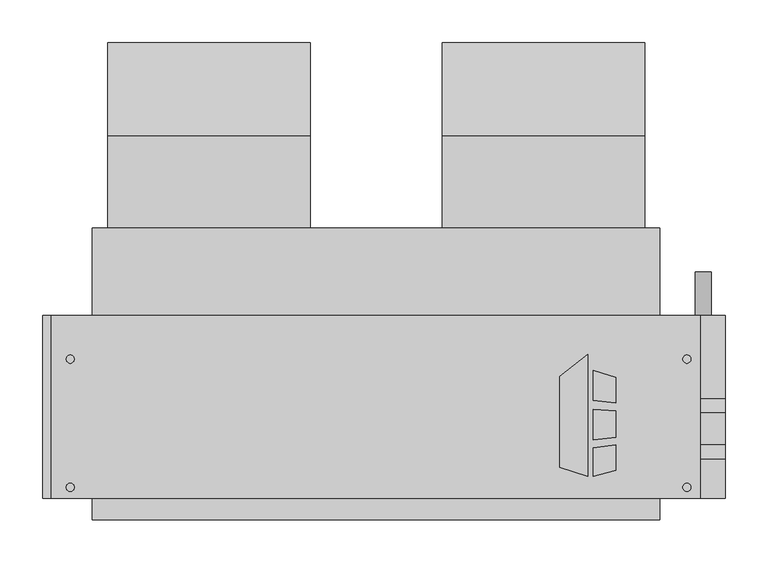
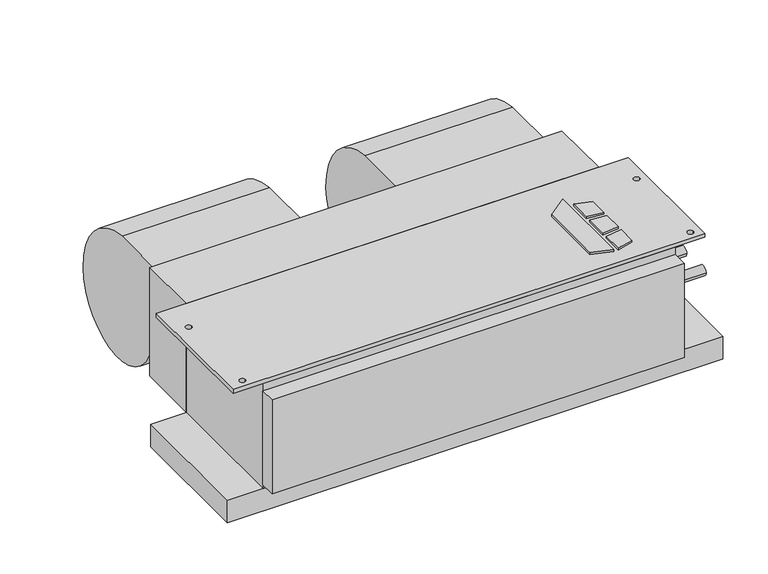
"""IFC4 building model written with IfcOpenShell, lengths in millimetres: proxy geometry, Concealed_Horizontal_Fan_Coil_Unit_-_CHY_-_IEC_-_2-Pipe_Cool-EHeat_RH_2022 : Size 04 - 277v/60Hz/1Ph - 4 Row 3.0kW."""

from ifc_helpers import new_model, si_unit, point, frame, frame_2d, origin, origin_with_axes, place, context, project, spatial, polyline, circle_curve, trimmed, segment, composite_curve, outline, extrude, source, transform, mapped, element, save


def mechanical_equipment_ea1d5f5e(model_context):
    return source(origin(), model_context, "Body", "SweptSolid", [
        extrude(outline(polyline([(366.4019761, -202.5703476), (398.9602728, -177.1330184), (398.9602728, -319.0875), (366.4019761, -308.8679201), (366.4019761, -202.5703476)])), origin_with_axes(), (0.0, 0.0, 1.0), 3.175),
        extrude(outline(polyline([(405.7186058, -230.442352), (405.7186058, -195.9624379), (431.8, -204.1490115), (431.8, -233.6447446), (405.7186058, -230.442352)])), origin_with_axes(), (0.0, 0.0, 1.0), 3.175),
        extrude(outline(polyline([(431.8, -312.0990115), (405.7186058, -319.0875), (405.7186058, -285.8661996), (431.8, -282.3243564), (431.8, -312.0990115)])), origin_with_axes(), (0.0, 0.0, 1.0), 3.175),
        extrude(outline(polyline([(431.8, -242.7263277), (431.8, -273.976483), (405.7186058, -276.717748), (405.7186058, -240.8600378), (431.8, -242.7263277)])), origin_with_axes(), (0.0, 0.0, 1.0), 3.175),
        extrude(outline(composite_curve([segment(trimmed(circle_curve(frame_2d((68.401169, -136.0299844)), 117.3559541), [point((77.7875, -19.05))], [point((185.7375, -138.176))], False, "CARTESIAN"), True, "CONTINUOUS"), segment(trimmed(circle_curve(frame_2d((90.0022663, -136.4250563)), 95.7512443), [point((185.7375, -138.176))], [point((77.7875, -231.394))], False, "CARTESIAN"), True, "CONTINUOUS"), segment(trimmed(circle_curve(frame_2d((89.9711869, -136.6666968)), 95.5076133), [point((77.7875, -231.394))], [point((-5.5245, -138.176))], False, "CARTESIAN"), True, "CONTINUOUS"), segment(trimmed(circle_curve(frame_2d((-24.6059828, -138.4775816)), 19.0838659), [point((-5.5245, -138.176))], [point((-17.7963373, -120.65))], True, "CARTESIAN"), True, "CONTINUOUS"), segment(polyline([(-17.7963373, -120.65), (-30.1625, -120.65), (-30.1625, -19.05), (77.7875, -19.05)]), True, "CONTINUOUS")], self_intersect=False)), frame((229.4255, 0.0, 0.0), z_axis=(1.0, 0.0, 0.0), x_axis=(0.0, 1.0, 0.0)), (0.0, 0.0, 1.0), 235.712),
        extrude(outline(composite_curve([segment(trimmed(circle_curve(frame_2d((68.401169, -136.0299844)), 117.3559541), [point((77.7875, -19.05))], [point((185.7375, -138.176))], False, "CARTESIAN"), True, "CONTINUOUS"), segment(trimmed(circle_curve(frame_2d((90.0022663, -136.4250563)), 95.7512443), [point((185.7375, -138.176))], [point((77.7875, -231.394))], False, "CARTESIAN"), True, "CONTINUOUS"), segment(trimmed(circle_curve(frame_2d((89.9711869, -136.6666968)), 95.5076133), [point((77.7875, -231.394))], [point((-5.5245, -138.176))], False, "CARTESIAN"), True, "CONTINUOUS"), segment(trimmed(circle_curve(frame_2d((-24.6059828, -138.4775816)), 19.0838659), [point((-5.5245, -138.176))], [point((-17.7963373, -120.65))], True, "CARTESIAN"), True, "CONTINUOUS"), segment(polyline([(-17.7963373, -120.65), (-30.1625, -120.65), (-30.1625, -19.05), (77.7875, -19.05)]), True, "CONTINUOUS")], self_intersect=False)), frame((-159.512, 0.0, 0.0), z_axis=(1.0, 0.0, 0.0), x_axis=(0.0, 1.0, 0.0)), (0.0, 0.0, 1.0), 235.712),
        extrude(outline(polyline([(530.225, -131.7625), (530.225, -344.4875), (-225.425, -344.4875), (-225.425, -131.7625), (530.225, -131.7625)]), holes=[composite_curve([segment(trimmed(circle_curve(frame_2d((-203.2, -182.5625)), 4.7625), [point((-207.9625, -182.5625))], [point((-198.4375, -182.5625))], True, "CARTESIAN"), True, "CONTINUOUS"), segment(trimmed(circle_curve(frame_2d((-203.2, -182.5625)), 4.7625), [point((-198.4375, -182.5625))], [point((-207.9625, -182.5625))], True, "CARTESIAN"), True, "CONTINUOUS")], self_intersect=False), composite_curve([segment(trimmed(circle_curve(frame_2d((-203.2, -331.7875)), 4.7625), [point((-207.9625, -331.7875))], [point((-198.4375, -331.7875))], True, "CARTESIAN"), True, "CONTINUOUS"), segment(trimmed(circle_curve(frame_2d((-203.2, -331.7875)), 4.7625), [point((-198.4375, -331.7875))], [point((-207.9625, -331.7875))], True, "CARTESIAN"), True, "CONTINUOUS")], self_intersect=False), composite_curve([segment(trimmed(circle_curve(frame_2d((514.35, -182.5625)), 4.7625), [point((509.5875, -182.5625))], [point((519.1125, -182.5625))], True, "CARTESIAN"), True, "CONTINUOUS"), segment(trimmed(circle_curve(frame_2d((514.35, -182.5625)), 4.7625), [point((519.1125, -182.5625))], [point((509.5875, -182.5625))], True, "CARTESIAN"), True, "CONTINUOUS")], self_intersect=False), composite_curve([segment(trimmed(circle_curve(frame_2d((514.35, -331.7875)), 4.7625), [point((509.5875, -331.7875))], [point((519.1125, -331.7875))], True, "CARTESIAN"), True, "CONTINUOUS"), segment(trimmed(circle_curve(frame_2d((514.35, -331.7875)), 4.7625), [point((519.1125, -331.7875))], [point((509.5875, -331.7875))], True, "CARTESIAN"), True, "CONTINUOUS")], self_intersect=False)]), frame((0.0, 0.0, -6.35), z_axis=(0.0, 0.0, 1.0), x_axis=(1.0, 0.0, 0.0)), (0.0, 0.0, 1.0), 6.35),
        extrude(outline(polyline([(-177.8, -30.1625), (482.6, -30.1625), (482.6, -131.7625), (-177.8, -131.7625), (-177.8, -30.1625)])), frame((0.0, 0.0, -184.15), z_axis=(0.0, 0.0, 1.0), x_axis=(1.0, 0.0, 0.0)), (0.0, 0.0, 1.0), 184.15),
        extrude(outline(composite_curve([segment(trimmed(circle_curve(frame_2d((-209.55, 533.4)), 9.525), [point((-209.55, 523.875))], [point((-209.55, 542.925))], False, "CARTESIAN"), True, "CONTINUOUS"), segment(trimmed(circle_curve(frame_2d((-209.55, 533.4)), 9.525), [point((-209.55, 542.925))], [point((-209.55, 523.875))], False, "CARTESIAN"), True, "CONTINUOUS")], self_intersect=False)), frame((0.0, -131.7625, 0.0), z_axis=(0.0, 1.0, 0.0), x_axis=(0.0, 0.0, 1.0)), (0.0, 0.0, 1.0), 50.8),
        extrude(outline(polyline([(482.6, -369.8875), (-177.8, -369.8875), (-177.8, -344.4875), (482.6, -344.4875), (482.6, -369.8875)])), frame((0.0, 0.0, -177.8), z_axis=(0.0, 0.0, 1.0), x_axis=(1.0, 0.0, 0.0)), (0.0, 0.0, 1.0), 158.75),
        extrude(outline(polyline([(558.8, -131.7625), (558.8, -344.4875), (-234.95, -344.4875), (-234.95, -131.7625), (558.8, -131.7625)])), frame((0.0, 0.0, -222.25), z_axis=(0.0, 0.0, 1.0), x_axis=(1.0, 0.0, 0.0)), (0.0, 0.0, 1.0), 38.1),
        extrude(outline(composite_curve([segment(trimmed(circle_curve(frame_2d((-290.5125, -104.775)), 7.9375), [point((-298.45, -104.775))], [point((-282.575, -104.775))], False, "CARTESIAN"), True, "CONTINUOUS"), segment(trimmed(circle_curve(frame_2d((-290.5125, -104.775)), 7.9375), [point((-282.575, -104.775))], [point((-298.45, -104.775))], False, "CARTESIAN"), True, "CONTINUOUS")], self_intersect=False)), frame((482.6, 0.0, 0.0), z_axis=(1.0, 0.0, 0.0), x_axis=(0.0, 1.0, 0.0)), (0.0, 0.0, 1.0), 76.2),
        extrude(outline(composite_curve([segment(trimmed(circle_curve(frame_2d((-236.5375, -104.775)), 7.9375), [point((-244.475, -104.775))], [point((-228.6, -104.775))], False, "CARTESIAN"), True, "CONTINUOUS"), segment(trimmed(circle_curve(frame_2d((-236.5375, -104.775)), 7.9375), [point((-228.6, -104.775))], [point((-244.475, -104.775))], False, "CARTESIAN"), True, "CONTINUOUS")], self_intersect=False)), frame((482.6, 0.0, 0.0), z_axis=(1.0, 0.0, 0.0), x_axis=(0.0, 1.0, 0.0)), (0.0, 0.0, 1.0), 76.2),
        extrude(outline(polyline([(482.6, -344.4875), (-177.8, -344.4875), (-177.8, -131.7625), (482.6, -131.7625), (482.6, -344.4875)])), frame((0.0, 0.0, -184.15), z_axis=(0.0, 0.0, 1.0), x_axis=(1.0, 0.0, 0.0)), (0.0, 0.0, 1.0), 177.8),
    ])


if __name__ == "__main__":
    model = new_model("IFC4")
    model_context = context("Model", 3, world=origin())
    ifc_project = project(units=[si_unit("LENGTHUNIT", "METRE", prefix="MILLI")], contexts=[model_context])
    site = spatial("IfcSite", under=ifc_project)
    building = spatial("IfcBuilding", under=site)
    placement = place(None, origin())
    mechanical_equipment_shape = mechanical_equipment_ea1d5f5e(model_context)
    element("IfcBuildingElementProxy", 1, Name="Concealed_Horizontal_Fan_Coil_Unit_-_CHY_-_IEC_-_2-Pipe_Cool-EHeat_RH_2022 : Size 04 - 277v/60Hz/1Ph - 4 Row 3.0kW", ObjectType="Concealed_Horizontal_Fan_Coil_Unit_-_CHY_-_IEC_-_2-Pipe_Cool-EHeat_RH_2022 : Size 04 - 277v/60Hz/1Ph - 4 Row 3.0kW", at=placement, inside=building, context=model_context, shape_type="MappedRepresentation", body=[
        mapped(mechanical_equipment_shape, transform((0.0, 0.0, 0.0), x_axis=(1.0, 0.0, 0.0), y_axis=(0.0, 1.0, 0.0), z_axis=(0.0, 0.0, 1.0))),
    ])
    save(model, "model.ifc")
